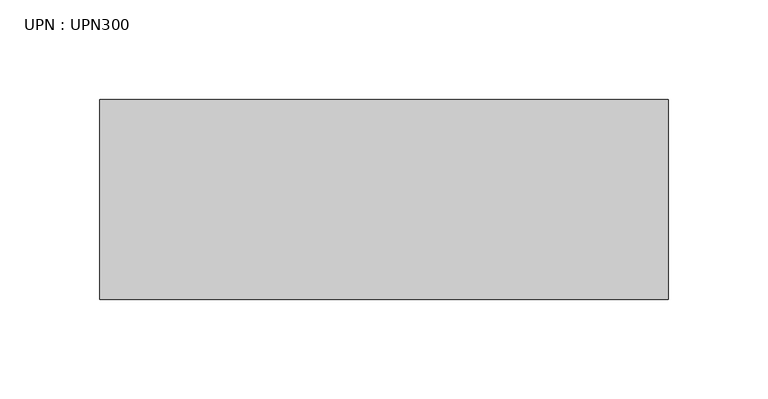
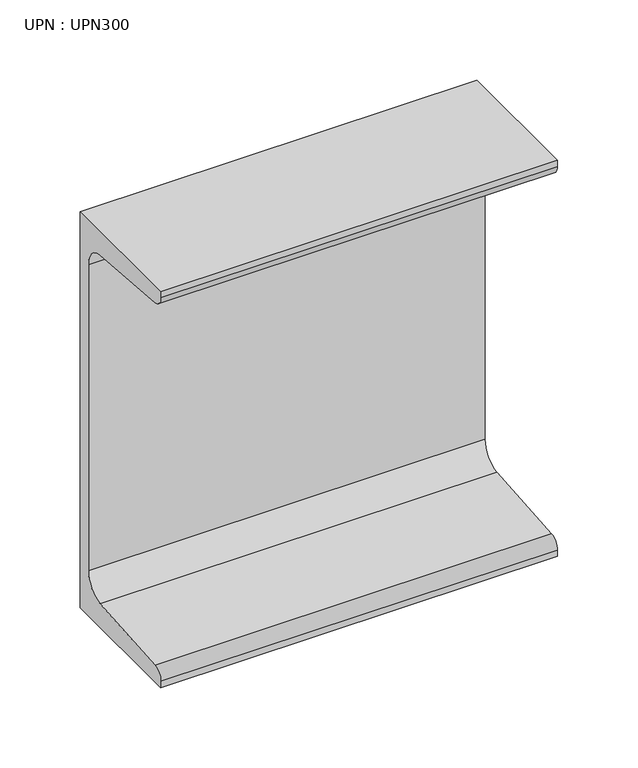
"""IFC4 building model written with IfcOpenShell, lengths in millimetres: beam geometry, UPN : UPN300."""

import ifcopenshell
import ifcopenshell.guid

model = None  # the IFC model being written
_history = None  # IfcOwnerHistory: only IFC2X3 demands one
_inside = {}  # id of a spatial element -> (the spatial element, [elements in it])
_under = {}  # id of a project, library or spatial element -> (it, [spatial elements below it])
_declared = {}  # id of a project -> (the project, [libraries it declares])
_typed = {}  # id of a type object -> (the type object, [elements of that type])
_made_of = {}  # id of a material, layer set ... -> (it, [elements and type objects made of it])


def new_model(schema):
    """Start an empty IFC model of exactly this schema.

    Asked for "IFC4X3", IfcOpenShell would pick the latest addendum, in which some entities
    have other attributes; the version numbers below select the first issue.
    IFC2X3 requires an IfcOwnerHistory on every rooted entity: one is made here for all.
    """
    global model, _history
    if schema == "IFC4X3":
        model = ifcopenshell.file(schema_version=(4, 3, 0, 0))
    else:
        model = ifcopenshell.file(schema=schema)
    _inside.clear()
    _under.clear()
    _declared.clear()
    _typed.clear()
    _made_of.clear()
    _history = None
    if model.schema == "IFC2X3":
        org = make("IfcOrganization", Name="unknown")
        user = make(
            "IfcPersonAndOrganization",
            ThePerson=make("IfcPerson", FamilyName="unknown"),
            TheOrganization=org,
        )
        app = make(
            "IfcApplication",
            ApplicationDeveloper=org,
            Version="unknown",
            ApplicationFullName="unknown",
            ApplicationIdentifier="unknown",
        )
        _history = make(
            "IfcOwnerHistory",
            OwningUser=user,
            OwningApplication=app,
            ChangeAction="ADDED",
            CreationDate=0,
        )
    return model


def make(cls, **values):
    """One entity of the class cls with the attributes given. An attribute that is None is left unset."""
    return model.create_entity(
        cls, **{name: value for name, value in values.items() if value is not None}
    )


def rooted(cls, **values):
    """An entity with a GlobalId (a new one), such as an element, a storey or a relation."""
    return make(cls, GlobalId=ifcopenshell.guid.new(), OwnerHistory=_history, **values)


def si_unit(unit_type, name, prefix=None):
    """IfcSIUnit, for example si_unit("LENGTHUNIT", "METRE", prefix="MILLI")."""
    return make("IfcSIUnit", UnitType=unit_type, Prefix=prefix, Name=name)


def assignment(units):
    """IfcUnitAssignment: the units of a project."""
    return None if units is None else make("IfcUnitAssignment", Units=units)


def point(xyz):
    """IfcCartesianPoint."""
    return None if xyz is None else make("IfcCartesianPoint", Coordinates=xyz)


def direction(xyz):
    """IfcDirection."""
    return None if xyz is None else make("IfcDirection", DirectionRatios=xyz)


def frame(location, z_axis=None, x_axis=None):
    """IfcAxis2Placement3D, a coordinate frame: its origin and axes. An axis left out is left unset."""
    return make(
        "IfcAxis2Placement3D",
        Location=point(location),
        Axis=direction(z_axis),
        RefDirection=direction(x_axis),
    )


def frame_2d(location, x_axis=None):
    """IfcAxis2Placement2D, a coordinate frame in the plane: its origin and x axis."""
    return make(
        "IfcAxis2Placement2D", Location=point(location), RefDirection=direction(x_axis)
    )


def origin():
    """The frame at (0, 0, 0) with its axes left unset."""
    return frame((0.0, 0.0, 0.0))


def place(relative_to, where):
    """IfcLocalPlacement: puts the frame where relative to a parent placement (None: the world)."""
    return make(
        "IfcLocalPlacement", PlacementRelTo=relative_to, RelativePlacement=where
    )


def context(
    kind, dimensions, precision=None, world=None, true_north=None, identifier=None
):
    """IfcGeometricRepresentationContext, for example the 3D "Model" context."""
    return make(
        "IfcGeometricRepresentationContext",
        ContextIdentifier=identifier,
        ContextType=kind,
        CoordinateSpaceDimension=dimensions,
        Precision=precision,
        WorldCoordinateSystem=world,
        TrueNorth=true_north,
    )


def project(units=None, contexts=None):
    """IfcProject with its units and contexts."""
    return rooted(
        "IfcProject",
        Name="project",
        RepresentationContexts=contexts,
        UnitsInContext=assignment(units),
    )


def spatial(cls, under=None, at=None, **own):
    """A site, building, storey or space (cls), placed at a placement, below another one or the project."""
    s = rooted(cls, ObjectPlacement=at, **own)
    if under is not None:
        _under.setdefault(under.id(), (under, []))[1].append(s)
    return s


def polyline(points):
    """IfcPolyline through the points."""
    return make("IfcPolyline", Points=[point(p) for p in points])


def circle_curve(where, radius):
    """IfcCircle in the frame where."""
    return make("IfcCircle", Position=where, Radius=radius)


def trimmed(basis, trim1, trim2, sense, master):
    """IfcTrimmedCurve: the piece of a basis curve between two trims."""
    return make(
        "IfcTrimmedCurve",
        BasisCurve=basis,
        Trim1=trim1,
        Trim2=trim2,
        SenseAgreement=sense,
        MasterRepresentation=master,
    )


def segment(curve, same_sense, transition):
    """IfcCompositeCurveSegment."""
    return make(
        "IfcCompositeCurveSegment",
        Transition=transition,
        SameSense=same_sense,
        ParentCurve=curve,
    )


def composite_curve(segments, self_intersect=None):
    """IfcCompositeCurve: segments joined end to end."""
    return make("IfcCompositeCurve", Segments=segments, SelfIntersect=self_intersect)


def outline(outer, holes=None, kind="AREA"):
    """IfcArbitraryClosedProfileDef: a profile drawn as a closed curve; with holes, ...WithVoids."""
    if holes is None:
        return make("IfcArbitraryClosedProfileDef", ProfileType=kind, OuterCurve=outer)
    return make(
        "IfcArbitraryProfileDefWithVoids",
        ProfileType=kind,
        OuterCurve=outer,
        InnerCurves=holes,
    )


def extrude(swept, where, along, depth):
    """IfcExtrudedAreaSolid: the profile swept, set in the frame where, extruded along a direction by depth."""
    return make(
        "IfcExtrudedAreaSolid",
        SweptArea=swept,
        Position=where,
        ExtrudedDirection=direction(along),
        Depth=depth,
    )


def shape(context_of_items, identifier, shape_type, items):
    """IfcShapeRepresentation: the items that make up one representation, for example the "Body"."""
    return make(
        "IfcShapeRepresentation",
        ContextOfItems=context_of_items,
        RepresentationIdentifier=identifier,
        RepresentationType=shape_type,
        Items=items,
    )


def source(mapping_origin, context_of_items, identifier, shape_type, items):
    """IfcRepresentationMap: a shape defined once, which mapped items show again and again."""
    return make(
        "IfcRepresentationMap",
        MappingOrigin=mapping_origin,
        MappedRepresentation=shape(context_of_items, identifier, shape_type, items),
    )


def transform(
    local_origin,
    x_axis=None,
    y_axis=None,
    z_axis=None,
    scale=None,
    scale2=None,
    scale3=None,
    uniform=True,
):
    """IfcCartesianTransformationOperator3D, or its non-uniform kind. x_axis, y_axis, z_axis: its Axis1, 2, 3."""
    if uniform:
        return make(
            "IfcCartesianTransformationOperator3D",
            Axis1=direction(x_axis),
            Axis2=direction(y_axis),
            LocalOrigin=point(local_origin),
            Scale=scale,
            Axis3=direction(z_axis),
        )
    return make(
        "IfcCartesianTransformationOperator3DnonUniform",
        Axis1=direction(x_axis),
        Axis2=direction(y_axis),
        LocalOrigin=point(local_origin),
        Scale=scale,
        Axis3=direction(z_axis),
        Scale2=scale2,
        Scale3=scale3,
    )


def mapped(mapping_source, mapping_target):
    """IfcMappedItem: shows the shape of a source again, moved by a transform."""
    return make(
        "IfcMappedItem", MappingSource=mapping_source, MappingTarget=mapping_target
    )


def made_of(thing, what):
    """Note that an element or type object is made of a material, layer set ...; save() writes the relation."""
    if what is not None:
        _made_of.setdefault(what.id(), (what, []))[1].append(thing)
    return thing


def element(
    cls,
    number,
    at=None,
    inside=None,
    cuts=None,
    type_object=None,
    material=None,
    context=None,
    identifier="Body",
    shape_type=None,
    held_by="IfcProductDefinitionShape",
    body=None,
    shapes=None,
    **own,
):
    """One element of the class cls, such as IfcWall. Its Tag is "e" and its number.

    at: its placement. inside: the storey or other place that contains it. cuts: it is an
    opening in that element (IfcRelVoidsElement). A single representation is given by context,
    identifier, shape_type and body (its items); several are given by shapes. held_by: the class
    of the entity that holds the representations. save() writes the other relations.
    """
    e = rooted(cls, Tag="e%d" % number, ObjectPlacement=at, **own)
    if body is not None:
        shapes = [shape(context, identifier, shape_type, body)]
    if shapes is not None:
        e.Representation = make(held_by, Representations=shapes)
    if inside is not None:
        _inside.setdefault(inside.id(), (inside, []))[1].append(e)
    if cuts is not None:
        rooted(
            "IfcRelVoidsElement", RelatingBuildingElement=cuts, RelatedOpeningElement=e
        )
    if type_object is not None:
        _typed.setdefault(type_object.id(), (type_object, []))[1].append(e)
    return made_of(e, material)


def aggregate(whole, parts):
    """IfcRelAggregates: a whole, such as a stair, and the parts it consists of."""
    return rooted("IfcRelAggregates", RelatingObject=whole, RelatedObjects=parts)


def save(model, path):
    """Write the relations noted so far, then the file.

    IfcRelAggregates (storeys below a building ...), IfcRelContainedInSpatialStructure (elements
    in a storey), IfcRelDefinesByType, IfcRelAssociatesMaterial and IfcRelDeclares: one each for
    every whole, place, type object, material and project.
    """
    for whole, parts in _under.values():
        aggregate(whole, parts)
    for where, things in _inside.values():
        rooted(
            "IfcRelContainedInSpatialStructure",
            RelatedElements=things,
            RelatingStructure=where,
        )
    for kind, things in _typed.values():
        rooted("IfcRelDefinesByType", RelatedObjects=things, RelatingType=kind)
    for what, things in _made_of.values():
        rooted("IfcRelAssociatesMaterial", RelatedObjects=things, RelatingMaterial=what)
    for by, libraries in _declared.values():
        rooted("IfcRelDeclares", RelatingContext=by, RelatedDefinitions=libraries)
    model.write(path)


def upn_upn300_71728d14(model_context):
    return source(origin(), model_context, "Body", "SweptSolid", [
        extrude(outline(composite_curve([segment(polyline([(27.0, 150.0), (27.0, -150.0), (-73.0, -150.0), (-73.0, -145.3826224)]), True, "CONTINUOUS"), segment(trimmed(circle_curve(frame_2d((-65.0, -145.3826224)), 8.0), [point((-73.0, -145.3826224))], [point((-65.637416, -137.4080566))], False, "CARTESIAN"), True, "CONTINUOUS"), segment(polyline([(-65.637416, -137.4080566), (2.274832, -131.9797543)]), True, "CONTINUOUS"), segment(trimmed(circle_curve(frame_2d((1.0, -116.0306225)), 16.0), [point((2.274832, -131.9797543))], [point((17.0, -116.0306225))], True, "CARTESIAN"), True, "CONTINUOUS"), segment(polyline([(17.0, -116.0306225), (17.0, 116.0306225)]), True, "CONTINUOUS"), segment(trimmed(circle_curve(frame_2d((1.0, 116.0306225)), 16.0), [point((17.0, 116.0306225))], [point((2.274832, 131.9797543))], True, "CARTESIAN"), True, "CONTINUOUS"), segment(polyline([(2.274832, 131.9797543), (-65.637416, 137.4080566)]), True, "CONTINUOUS"), segment(trimmed(circle_curve(frame_2d((-65.0, 145.3826224)), 8.0), [point((-65.637416, 137.4080566))], [point((-73.0, 145.3826224))], False, "CARTESIAN"), True, "CONTINUOUS"), segment(polyline([(-73.0, 145.3826224), (-73.0, 150.0), (27.0, 150.0)]), True, "CONTINUOUS")], self_intersect=False)), frame((-142.3, 0.0, 0.0), z_axis=(1.0, 0.0, 0.0), x_axis=(0.0, 1.0, 0.0)), (0.0, 0.0, 1.0), 284.6),
    ])


if __name__ == "__main__":
    model = new_model("IFC4")
    model_context = context("Model", 3, world=origin())
    ifc_project = project(units=[si_unit("LENGTHUNIT", "METRE", prefix="MILLI")], contexts=[model_context])
    site = spatial("IfcSite", under=ifc_project)
    building = spatial("IfcBuilding", under=site)
    placement = place(None, origin())
    upn_upn300_shape = upn_upn300_71728d14(model_context)
    element("IfcBeam", 1, ObjectType="UPN : UPN300", at=placement, inside=building, context=model_context, shape_type="MappedRepresentation", body=[
        mapped(upn_upn300_shape, transform((0.0, 0.0, 0.0), x_axis=(1.0, 0.0, 0.0), y_axis=(0.0, 1.0, 0.0), z_axis=(0.0, 0.0, 1.0))),
    ])
    save(model, "model.ifc")
